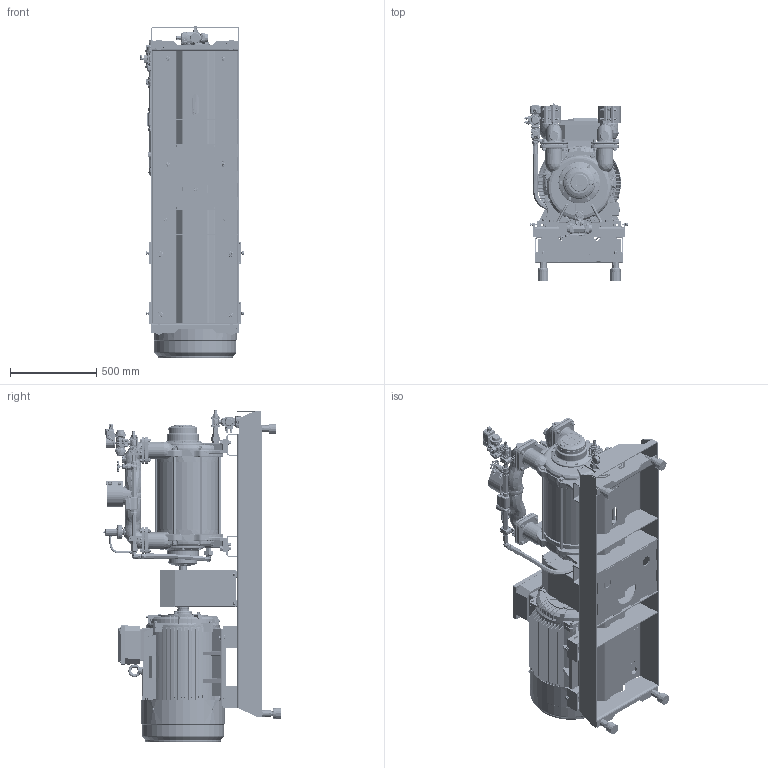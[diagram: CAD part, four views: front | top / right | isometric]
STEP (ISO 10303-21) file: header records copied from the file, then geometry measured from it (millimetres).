
FILE_DESCRIPTION(/* description */ (''),/* implementation_level */ '2;1');
FILE_NAME(/* name */ '1700134A.stp',/* time_stamp */ '2025-08-01T09:27:46+02:00',/* author */ ('JJ'),/* organization */ (''),/* preprocessor_version */ 'ST-DEVELOPER v20',/* originating_system */ 'Autodesk Inventor 2025',/* authorisation */ '');
FILE_SCHEMA (('AUTOMOTIVE_DESIGN { 1 0 10303 214 3 1 1 }'));
Products named in the file (67): 1700134; 946000138; 910100155; 910000526; 910000297; 910000517; 1632204; 910100021; 1632205; 1632208; 910100161; 961000522; 910200008; 910000150; 1619221_Simplify_OMS; 1632214; 944600330; 925200200; 948000429; 925000732; 925200594; 925000793; 925000880; 1632212; 927000162-388 version 3; 925000873; 925000882; 925000882_part1; 925000882_part2; 925000878; 925000792; 1632216; 944600329; 944600328; 910100191; 910000114; 948000434; 948000434_part2; 948000434_part1; 915000241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
Assembly tree (196 placements, depth 4):
  1700134
    946000138
    910100155  x4
    910000526  x4
    910100021  x12
    910000297  x4
    910000517  x4
    1632204  x4
    1632205  x4
    1632208  x4
    910100161  x4
    961000522  x4
    910200008  x4
    910000150  x4
    1619221_Simplify_OMS
    1632214
      944600330
      925200200
      948000429
      925000732
      925200594
      925000793
      944600329
      944600328
      910100191  x4
      910000114  x4
      948000434
        948000434_part2
        948000434_part1
      915000241  x2
      925000725
      925000880
    1632212
      925000873  x2
      925000878  x2
      925000882  x2
        925000882_part1
        925000882_part2
      927000162-388 version 3
    925000792
    1632216
      944600329
      944600328
      910100191  x4
      910000114  x4
      948000434
        948000434_part2
        948000434_part1
      915000241  x2
      925000725
      925000869
      925200610
    925000857  x4
    910300370  x4
    1632246  x2
    910100125  x4
    910300468  x4
    1634666_Simplify
    927000134 OM1000 G2
    925100552
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Bounding box: 604.85 x 1025.15 x 1921.48 mm (x, y, z)
Volume: 126207027 mm3; surface area: 16118727.7 mm2
Topology: 329 solids, 331 shells, 23518 faces, 59327 edges, 37346 vertices
Faces by surface type: plane 9438, cylinder 5425, bspline 4562, cone 2168, torus 1674, sphere 251
Full cylindrical faces by diameter (mm): 0.8 x1, 0.847 x2, 0.857 x2, 1.656 x4, 1.676 x1, 1.7 x4, 1.8 x4, 2 x28, 2.2 x2, 2.5 x6, 3 x4, 3.2 x3, 3.3 x4, 3.6 x4, 4 x4, 4.134 x8, 4.2 x16, 4.3 x8, 4.45 x6, 4.567 x8, 4.917 x14, 5 x12, 5.3 x8, 5.589 x1, 5.6 x16, 6 x40, 6.4 x4, 6.5 x8, 6.647 x2, 6.7 x16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
Entity records: 769355 total; most frequent: CARTESIAN_POINT 437180, ORIENTED_EDGE 70342, DIRECTION 62060, EDGE_CURVE 35171, AXIS2_PLACEMENT_3D 23134, VERTEX_POINT 22178, LINE 15792, VECTOR 15792
